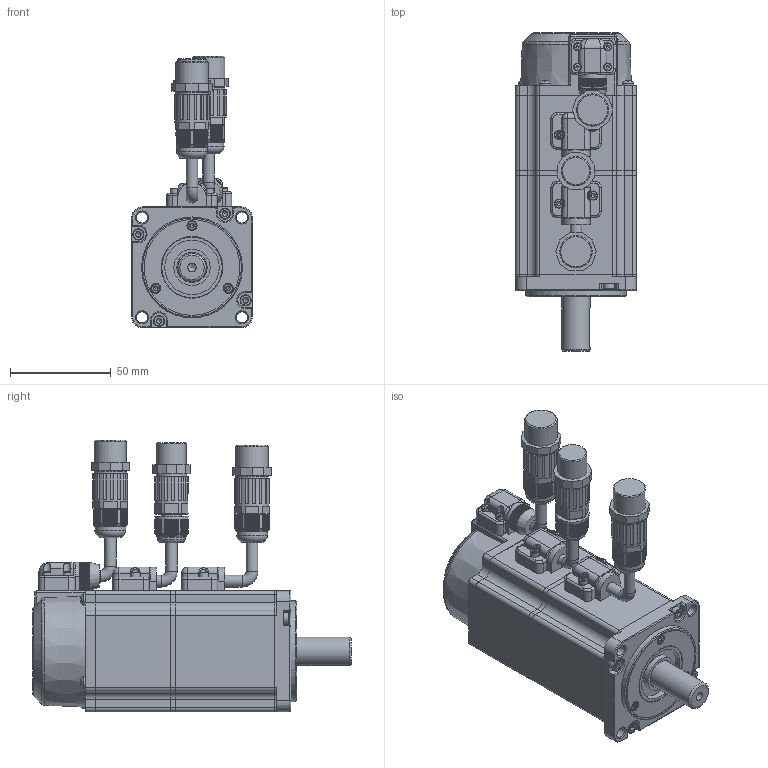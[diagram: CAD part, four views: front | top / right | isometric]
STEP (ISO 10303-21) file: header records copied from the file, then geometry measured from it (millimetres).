
FILE_DESCRIPTION(/* description */ (''),/* implementation_level */ '2;1');
FILE_NAME(/* name */ '60SY-M00630S1-5-Z.stp',/* time_stamp */ '2024-01-04T10:53:59+08:00',/* author */ (''),/* organization */ (''),/* preprocessor_version */ 'ST-DEVELOPER v18.1',/* originating_system */ 'SIEMENS PLM Software NX 2000',/* authorisation */ '');
FILE_SCHEMA (('AUTOMOTIVE_DESIGN { 1 0 10303 214 3 1 1 1 }'));
Products named in the file (1): 60S1电机外形图(00630)
Bounding box: 60 x 158 x 134.76 mm (x, y, z)
Volume: 386148.2 mm3; surface area: 101424.2 mm2
Topology: 36 solids, 42 shells, 3261 faces, 8738 edges, 5605 vertices
Faces by surface type: plane 2213, cylinder 650, sphere 142, cone 121, torus 80, bspline 55
Full cylindrical faces by diameter (mm): 1.5 x4, 2 x8, 2.05 x3, 2.1 x4, 2.38 x7, 2.5 x10, 2.6 x4, 2.874 x4, 2.9 x3, 3.4 x8, 3.5 x8, 3.8 x4, 4.2 x1, 4.5 x7, 5 x3, 5.5 x8, 5.8 x8, 10 x1, 13 x2, 13.5 x1, 14 x1, 14.5 x1, 14.8 x1, 15 x2, 15.3 x2, 15.6 x2, 16 x2, 16.1 x2, 16.5 x2, 17.3 x2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
Entity records: 103077 total; most frequent: CARTESIAN_POINT 25000, ORIENTED_EDGE 16864, DIRECTION 14867, EDGE_CURVE 8432, VERTEX_POINT 5537, AXIS2_PLACEMENT_3D 5028, LINE 4811, VECTOR 4811
